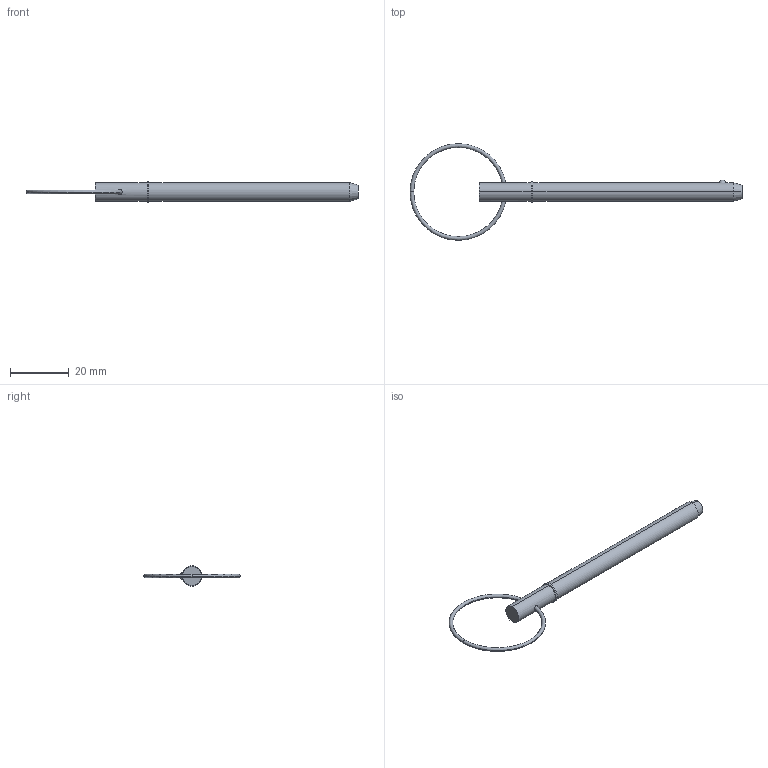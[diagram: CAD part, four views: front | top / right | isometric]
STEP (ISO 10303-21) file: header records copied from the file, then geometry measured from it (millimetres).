
FILE_DESCRIPTION (( 'STEP AP203' ), '1' );
FILE_NAME ('33014.W2525.step', '2024-11-04T08:23:52', ( '' ), ( '' ), 'SwSTEP 2.0', 'SolidWorks 2019', '' );
FILE_SCHEMA (( 'CONFIG_CONTROL_DESIGN' ));
Length unit declared in the file: millimetre
Products named in the file (3): Part2_33014.W2525; Part1_33014.W2525; 33014.W2525
Assembly tree (2 placements, depth 2):
  33014.W2525
    Part1_33014.W2525
    Part2_33014.W2525
Bounding box: 113.44 x 33.02 x 6.99 mm (x, y, z)
Volume: 2940.2 mm3; surface area: 2276.7 mm2
Topology: 2 solids, 2 shells, 22 faces, 43 edges, 26 vertices
Faces by surface type: torus 8, cylinder 6, plane 4, sphere 2, cone 2
Entity records: 975 total; most frequent: CARTESIAN_POINT 198, DIRECTION 120, ORIENTED_EDGE 86, AXIS2_PLACEMENT_3D 56, EDGE_CURVE 43, CIRCLE 29, EDGE_LOOP 27, VERTEX_POINT 26
